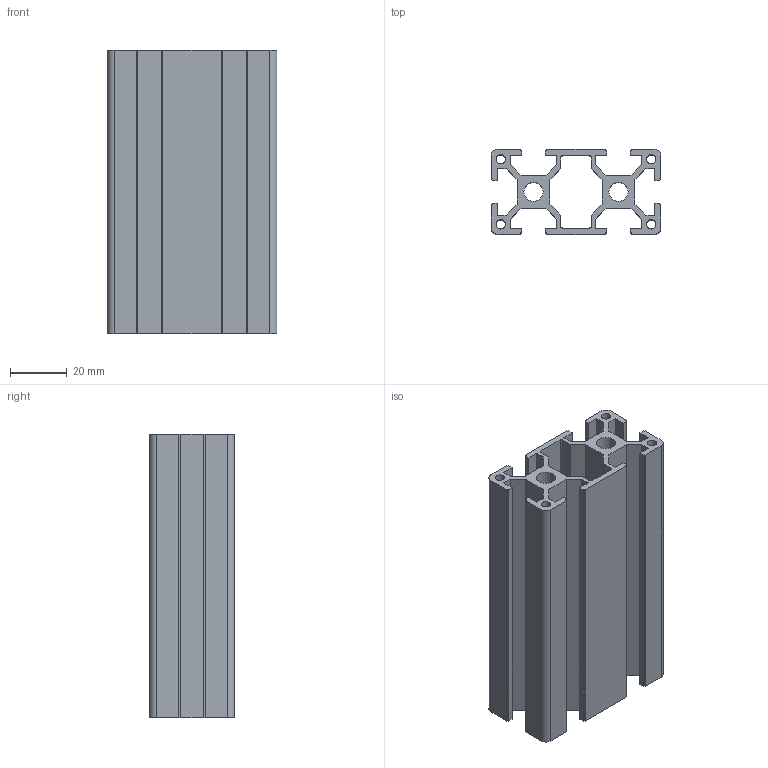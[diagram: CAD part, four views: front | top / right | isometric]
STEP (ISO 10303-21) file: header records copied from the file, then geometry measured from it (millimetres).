
FILE_DESCRIPTION (( 'STEP AP203' ), '1' );
FILE_NAME ('LIMA-3060-8.STEP', '2018-03-15T12:29:02', ( '' ), ( '' ), 'SwSTEP 2.0', 'SolidWorks 2013', '' );
FILE_SCHEMA (( 'CONFIG_CONTROL_DESIGN' ));
Length unit declared in the file: millimetre
Products named in the file (1): LIMA-3060-8
Bounding box: 60 x 30 x 100 mm (x, y, z)
Volume: 60260.5 mm3; surface area: 53286.8 mm2
Topology: 1 solids, 1 shells, 122 faces, 360 edges, 240 vertices
Faces by surface type: plane 102, cylinder 20
Entity records: 4129 total; most frequent: CARTESIAN_POINT 723, ORIENTED_EDGE 720, DIRECTION 646, EDGE_CURVE 360, VECTOR 320, LINE 320, VERTEX_POINT 240, AXIS2_PLACEMENT_3D 163
